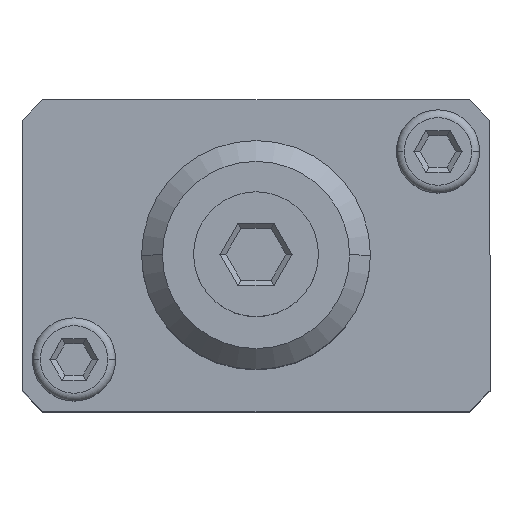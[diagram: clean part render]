
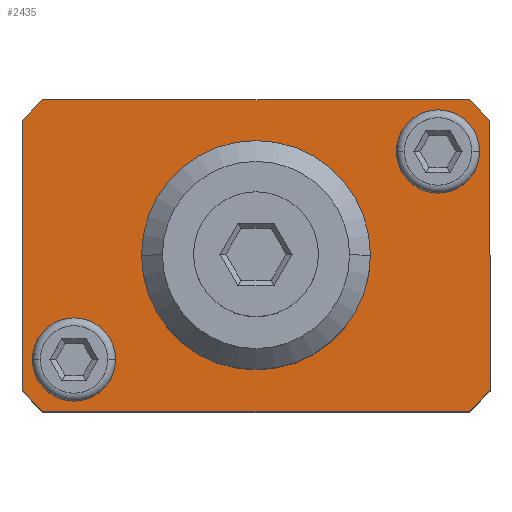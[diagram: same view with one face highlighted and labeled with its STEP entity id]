
A CAD part, top view. The second image highlights one B-rep face of the part: STEP entity #2435.
In plain terms, the highlighted planar face has unit normal (0, 0, 1).
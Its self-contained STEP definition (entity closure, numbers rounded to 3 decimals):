
#56 = CARTESIAN_POINT ( 'NONE',  ( 22.5, 13., 52. ) ) ;
#57 = AXIS2_PLACEMENT_3D ( 'NONE', #1604, #1659, #786 ) ;
#59 = CARTESIAN_POINT ( 'NONE',  ( -20.5, 15., 52. ) ) ;
#61 = CIRCLE ( 'NONE', #3049, 4. ) ;
#69 = EDGE_LOOP ( 'NONE', ( #1282, #2416, #2612, #382, #1024, #87, #1113, #1552 ) ) ;
#71 = DIRECTION ( 'NONE',  ( -1., 0., 0. ) ) ;
#87 = ORIENTED_EDGE ( 'NONE', *, *, #1530, .T. ) ;
#100 = VECTOR ( 'NONE', #349, 1000. ) ;
#171 = EDGE_CURVE ( 'NONE', #1354, #3064, #61, .T. ) ;
#184 = CARTESIAN_POINT ( 'NONE',  ( -22.5, -13., 52. ) ) ;
#207 = LINE ( 'NONE', #347, #1031 ) ;
#317 = LINE ( 'NONE', #2383, #2998 ) ;
#336 = DIRECTION ( 'NONE',  ( -1., 0., 0. ) ) ;
#347 = CARTESIAN_POINT ( 'NONE',  ( -20.5, -15., 52. ) ) ;
#349 = DIRECTION ( 'NONE',  ( -0.707, 0.707, 0. ) ) ;
#351 = CARTESIAN_POINT ( 'NONE',  ( -11., 0., 52. ) ) ;
#382 = ORIENTED_EDGE ( 'NONE', *, *, #1721, .T. ) ;
#390 = ORIENTED_EDGE ( 'NONE', *, *, #2862, .F. ) ;
#394 = EDGE_CURVE ( 'NONE', #2282, #2030, #2891, .T. ) ;
#450 = CARTESIAN_POINT ( 'NONE',  ( -21.5, -10., 52. ) ) ;
#497 = CARTESIAN_POINT ( 'NONE',  ( 22.5, 13., 52. ) ) ;
#506 = FACE_BOUND ( 'NONE', #1815, .T. ) ;
#610 = DIRECTION ( 'NONE',  ( 0., 0., 1. ) ) ;
#657 = VECTOR ( 'NONE', #1593, 1000. ) ;
#749 = LINE ( 'NONE', #59, #1712 ) ;
#768 = VERTEX_POINT ( 'NONE', #1949 ) ;
#786 = DIRECTION ( 'NONE',  ( -1., 0., 0. ) ) ;
#805 = CARTESIAN_POINT ( 'NONE',  ( 13.5, 10., 52. ) ) ;
#846 = LINE ( 'NONE', #2234, #1499 ) ;
#889 = LINE ( 'NONE', #1601, #100 ) ;
#918 = VERTEX_POINT ( 'NONE', #450 ) ;
#922 = EDGE_CURVE ( 'NONE', #3328, #2821, #889, .T. ) ;
#972 = EDGE_LOOP ( 'NONE', ( #1124, #1302 ) ) ;
#1015 = ORIENTED_EDGE ( 'NONE', *, *, #3360, .F. ) ;
#1024 = ORIENTED_EDGE ( 'NONE', *, *, #2206, .T. ) ;
#1031 = VECTOR ( 'NONE', #1941, 1000. ) ;
#1039 = CARTESIAN_POINT ( 'NONE',  ( 17.5, 10., 52. ) ) ;
#1066 = EDGE_CURVE ( 'NONE', #2821, #2282, #749, .T. ) ;
#1075 = AXIS2_PLACEMENT_3D ( 'NONE', #1039, #2982, #1322 ) ;
#1099 = FACE_BOUND ( 'NONE', #972, .T. ) ;
#1112 = AXIS2_PLACEMENT_3D ( 'NONE', #2289, #2250, #2238 ) ;
#1113 = ORIENTED_EDGE ( 'NONE', *, *, #2149, .T. ) ;
#1124 = ORIENTED_EDGE ( 'NONE', *, *, #2104, .F. ) ;
#1282 = ORIENTED_EDGE ( 'NONE', *, *, #1066, .T. ) ;
#1293 = VERTEX_POINT ( 'NONE', #184 ) ;
#1302 = ORIENTED_EDGE ( 'NONE', *, *, #2090, .F. ) ;
#1322 = DIRECTION ( 'NONE',  ( -1., 0., 0. ) ) ;
#1354 = VERTEX_POINT ( 'NONE', #805 ) ;
#1359 = CARTESIAN_POINT ( 'NONE',  ( -17.5, -10., 52. ) ) ;
#1376 = CARTESIAN_POINT ( 'NONE',  ( 0., 0., 52. ) ) ;
#1499 = VECTOR ( 'NONE', #2455, 1000. ) ;
#1514 = CIRCLE ( 'NONE', #57, 11. ) ;
#1530 = EDGE_CURVE ( 'NONE', #3194, #2384, #846, .T. ) ;
#1552 = ORIENTED_EDGE ( 'NONE', *, *, #922, .T. ) ;
#1593 = DIRECTION ( 'NONE',  ( 0., 1., 0. ) ) ;
#1601 = CARTESIAN_POINT ( 'NONE',  ( 20.5, 15., 52. ) ) ;
#1604 = CARTESIAN_POINT ( 'NONE',  ( 0., 0., 52. ) ) ;
#1635 = DIRECTION ( 'NONE',  ( -1., 0., 0. ) ) ;
#1659 = DIRECTION ( 'NONE',  ( 0., 0., 1. ) ) ;
#1712 = VECTOR ( 'NONE', #71, 1000. ) ;
#1721 = EDGE_CURVE ( 'NONE', #1293, #3072, #3325, .T. ) ;
#1746 = CIRCLE ( 'NONE', #2565, 4. ) ;
#1815 = EDGE_LOOP ( 'NONE', ( #3455, #2692 ) ) ;
#1833 = CARTESIAN_POINT ( 'NONE',  ( 20.5, -15., 52. ) ) ;
#1941 = DIRECTION ( 'NONE',  ( 1., 0., 0. ) ) ;
#1949 = CARTESIAN_POINT ( 'NONE',  ( -13.5, -10., 52. ) ) ;
#1965 = CARTESIAN_POINT ( 'NONE',  ( -22.5, 13., 52. ) ) ;
#2010 = DIRECTION ( 'NONE',  ( -0.707, -0.707, 0. ) ) ;
#2021 = FACE_OUTER_BOUND ( 'NONE', #69, .T. ) ;
#2030 = VERTEX_POINT ( 'NONE', #1965 ) ;
#2057 = CARTESIAN_POINT ( 'NONE',  ( -20.5, -15., 52. ) ) ;
#2060 = FACE_BOUND ( 'NONE', #2650, .T. ) ;
#2085 = DIRECTION ( 'NONE',  ( 0., -1., 0. ) ) ;
#2090 = EDGE_CURVE ( 'NONE', #2973, #2940, #3422, .T. ) ;
#2104 = EDGE_CURVE ( 'NONE', #2940, #2973, #1514, .T. ) ;
#2126 = CARTESIAN_POINT ( 'NONE',  ( -22.5, 13., 52. ) ) ;
#2149 = EDGE_CURVE ( 'NONE', #2384, #3328, #2909, .T. ) ;
#2182 = CARTESIAN_POINT ( 'NONE',  ( -20.5, 15., 52. ) ) ;
#2206 = EDGE_CURVE ( 'NONE', #3072, #3194, #207, .T. ) ;
#2234 = CARTESIAN_POINT ( 'NONE',  ( 20.5, -15., 52. ) ) ;
#2238 = DIRECTION ( 'NONE',  ( -1., 0., 0. ) ) ;
#2250 = DIRECTION ( 'NONE',  ( 0., 0., -1. ) ) ;
#2261 = DIRECTION ( 'NONE',  ( 0., 0., 1. ) ) ;
#2263 = CARTESIAN_POINT ( 'NONE',  ( -17.5, -10., 52. ) ) ;
#2282 = VERTEX_POINT ( 'NONE', #2182 ) ;
#2289 = CARTESIAN_POINT ( 'NONE',  ( 0., 0., 52. ) ) ;
#2310 = PLANE ( 'NONE',  #1112 ) ;
#2329 = CARTESIAN_POINT ( 'NONE',  ( -22.5, -13., 52. ) ) ;
#2339 = CARTESIAN_POINT ( 'NONE',  ( 21.5, 10., 52. ) ) ;
#2383 = CARTESIAN_POINT ( 'NONE',  ( -22.5, 13., 52. ) ) ;
#2384 = VERTEX_POINT ( 'NONE', #2653 ) ;
#2416 = ORIENTED_EDGE ( 'NONE', *, *, #394, .T. ) ;
#2435 = ADVANCED_FACE ( 'NONE', ( #506, #2060, #1099, #2021 ), #2310, .F. ) ;
#2455 = DIRECTION ( 'NONE',  ( 0.707, 0.707, 0. ) ) ;
#2541 = DIRECTION ( 'NONE',  ( -1., 0., 0. ) ) ;
#2565 = AXIS2_PLACEMENT_3D ( 'NONE', #1359, #3296, #1635 ) ;
#2612 = ORIENTED_EDGE ( 'NONE', *, *, #3173, .T. ) ;
#2650 = EDGE_LOOP ( 'NONE', ( #390, #1015 ) ) ;
#2653 = CARTESIAN_POINT ( 'NONE',  ( 22.5, -13., 52. ) ) ;
#2692 = ORIENTED_EDGE ( 'NONE', *, *, #3298, .F. ) ;
#2752 = VECTOR ( 'NONE', #3578, 1000. ) ;
#2798 = CARTESIAN_POINT ( 'NONE',  ( 20.5, 15., 52. ) ) ;
#2821 = VERTEX_POINT ( 'NONE', #2798 ) ;
#2855 = CARTESIAN_POINT ( 'NONE',  ( 11., 0., 52. ) ) ;
#2862 = EDGE_CURVE ( 'NONE', #918, #768, #3139, .T. ) ;
#2891 = LINE ( 'NONE', #2126, #2934 ) ;
#2909 = LINE ( 'NONE', #56, #657 ) ;
#2934 = VECTOR ( 'NONE', #2010, 1000. ) ;
#2940 = VERTEX_POINT ( 'NONE', #351 ) ;
#2950 = CARTESIAN_POINT ( 'NONE',  ( 17.5, 10., 52. ) ) ;
#2973 = VERTEX_POINT ( 'NONE', #2855 ) ;
#2982 = DIRECTION ( 'NONE',  ( 0., 0., 1. ) ) ;
#2989 = DIRECTION ( 'NONE',  ( 0., 0., 1. ) ) ;
#2998 = VECTOR ( 'NONE', #2085, 1000. ) ;
#3030 = DIRECTION ( 'NONE',  ( -1., 0., 0. ) ) ;
#3049 = AXIS2_PLACEMENT_3D ( 'NONE', #2950, #2989, #3030 ) ;
#3064 = VERTEX_POINT ( 'NONE', #2339 ) ;
#3072 = VERTEX_POINT ( 'NONE', #2057 ) ;
#3139 = CIRCLE ( 'NONE', #3440, 4. ) ;
#3173 = EDGE_CURVE ( 'NONE', #2030, #1293, #317, .T. ) ;
#3194 = VERTEX_POINT ( 'NONE', #1833 ) ;
#3285 = AXIS2_PLACEMENT_3D ( 'NONE', #1376, #2261, #336 ) ;
#3296 = DIRECTION ( 'NONE',  ( 0., 0., 1. ) ) ;
#3298 = EDGE_CURVE ( 'NONE', #3064, #1354, #3392, .T. ) ;
#3325 = LINE ( 'NONE', #2329, #2752 ) ;
#3328 = VERTEX_POINT ( 'NONE', #497 ) ;
#3360 = EDGE_CURVE ( 'NONE', #768, #918, #1746, .T. ) ;
#3392 = CIRCLE ( 'NONE', #1075, 4. ) ;
#3422 = CIRCLE ( 'NONE', #3285, 11. ) ;
#3440 = AXIS2_PLACEMENT_3D ( 'NONE', #2263, #610, #2541 ) ;
#3455 = ORIENTED_EDGE ( 'NONE', *, *, #171, .F. ) ;
#3578 = DIRECTION ( 'NONE',  ( 0.707, -0.707, 0. ) ) ;
